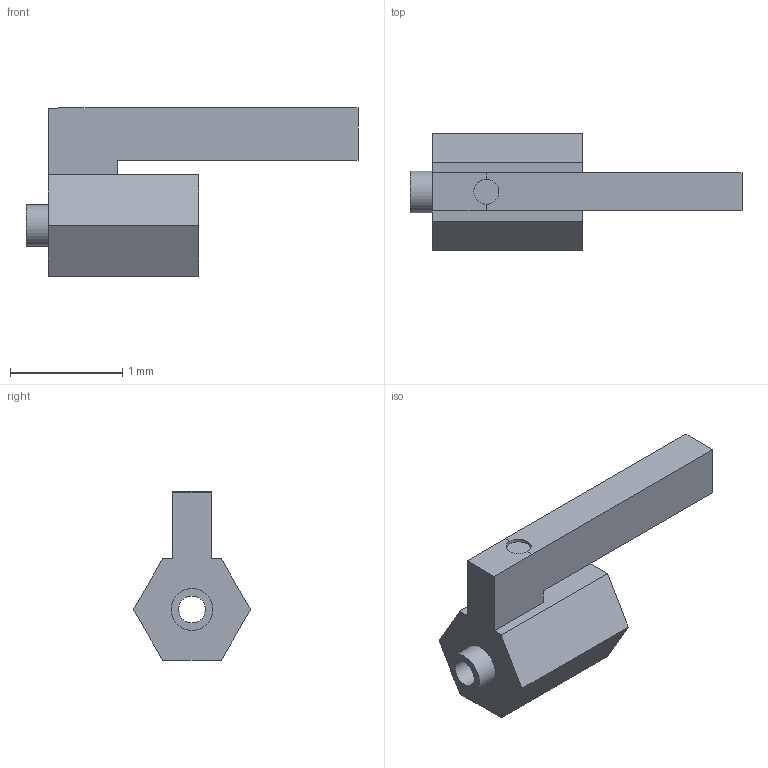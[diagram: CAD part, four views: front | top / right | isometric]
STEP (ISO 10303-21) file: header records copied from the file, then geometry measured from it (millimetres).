
FILE_DESCRIPTION(('Open CASCADE Model'),'2;1');
FILE_NAME('Open CASCADE Shape Model','2021-09-23T15:14:09',('Author'),( 'Open CASCADE'),'Open CASCADE STEP processor 7.3','Open CASCADE 7.3' ,'Unknown');
FILE_SCHEMA(('AUTOMOTIVE_DESIGN { 1 0 10303 214 1 1 1 1 }'));
Length unit declared in the file: millimetre
Products named in the file (1): Open CASCADE STEP translator 7.3 1
Bounding box: 2.96 x 1.04 x 1.5 mm (x, y, z)
Volume: 1.3 mm3; surface area: 11.9 mm2
Topology: 1 solids, 1 shells, 22 faces, 55 edges, 37 vertices
Faces by surface type: plane 18, cylinder 4
Full cylindrical faces by diameter (mm): 0.223 x1, 0.24 x1, 0.33 x1, 0.373 x1
Entity records: 1432 total; most frequent: CARTESIAN_POINT 307, DIRECTION 208, LINE 138, VECTOR 138, ORIENTED_EDGE 110, PCURVE 110, DEFINITIONAL_REPRESENTATION 110, EDGE_CURVE 55
